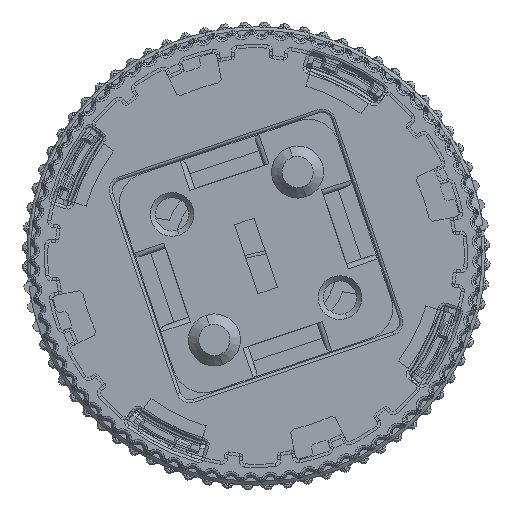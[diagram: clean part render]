
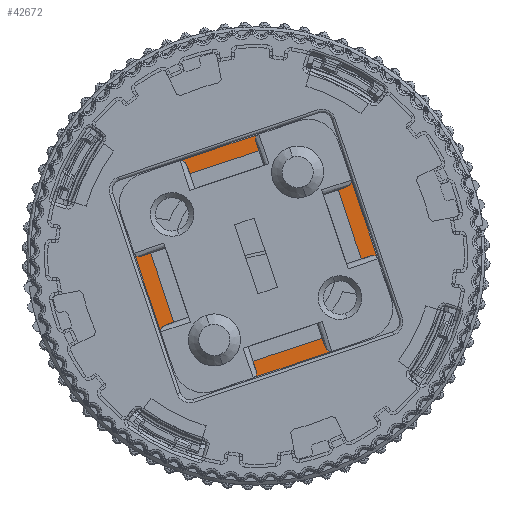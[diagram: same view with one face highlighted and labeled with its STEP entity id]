
A CAD part, left-side view. The second image highlights one B-rep face of the part: STEP entity #42672.
In plain terms, the highlighted planar face has unit normal (-1, 0, 0).
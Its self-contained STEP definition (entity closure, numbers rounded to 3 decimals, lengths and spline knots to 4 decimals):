
#770 = VECTOR ( 'NONE', #143463, 39.3701 ) ;
#2099 = EDGE_CURVE ( 'NONE', #58279, #2350, #7501, .T. ) ;
#2350 = VERTEX_POINT ( 'NONE', #116329 ) ;
#2763 = DIRECTION ( 'NONE',  ( -1., 0., 0. ) ) ;
#6758 = DIRECTION ( 'NONE',  ( -1., 0., 0. ) ) ;
#7058 = VERTEX_POINT ( 'NONE', #138198 ) ;
#7501 = CIRCLE ( 'NONE', #40530, 0.0591 ) ;
#8151 = CARTESIAN_POINT ( 'NONE',  ( -126.1274, -1.8961, 5.7421 ) ) ;
#9899 = CARTESIAN_POINT ( 'NONE',  ( -126.1274, -1.9703, 5.8917 ) ) ;
#9946 = CARTESIAN_POINT ( 'NONE',  ( -126.1274, -1.0226, 6.3617 ) ) ;
#11667 = CARTESIAN_POINT ( 'NONE',  ( -126.1274, -1.8773, 5.798 ) ) ;
#17956 = EDGE_CURVE ( 'NONE', #103654, #7058, #107394, .T. ) ;
#18518 = CARTESIAN_POINT ( 'NONE',  ( -126.1274, -1.1495, 5.6152 ) ) ;
#22136 = CARTESIAN_POINT ( 'NONE',  ( -126.1274, -1.6573, 6.4509 ) ) ;
#23088 = ORIENTED_EDGE ( 'NONE', *, *, #17956, .F. ) ;
#23398 = VECTOR ( 'NONE', #141774, 39.3701 ) ;
#24155 = DIRECTION ( 'NONE',  ( 0., -0.319, -0.948 ) ) ;
#24562 = CARTESIAN_POINT ( 'NONE',  ( -126.1274, -0.9484, 6.2121 ) ) ;
#27514 = EDGE_CURVE ( 'NONE', #7058, #58279, #106747, .T. ) ;
#29853 = EDGE_CURVE ( 'NONE', #45761, #100024, #94927, .T. ) ;
#30330 = DIRECTION ( 'NONE',  ( -1., 0., 0. ) ) ;
#31359 = DIRECTION ( 'NONE',  ( 1., 0., 0. ) ) ;
#32556 = VERTEX_POINT ( 'NONE', #152273 ) ;
#33954 = AXIS2_PLACEMENT_3D ( 'NONE', #100834, #128558, #158840 ) ;
#40530 = AXIS2_PLACEMENT_3D ( 'NONE', #179499, #6758, #165046 ) ;
#40935 = CARTESIAN_POINT ( 'NONE',  ( -126.1274, -1.6196, 6.5629 ) ) ;
#41135 = VERTEX_POINT ( 'NONE', #73637 ) ;
#42672 = ADVANCED_FACE ( 'NONE', ( #95650, #57364 ), #159929, .F. ) ;
#43236 = ORIENTED_EDGE ( 'NONE', *, *, #27514, .F. ) ;
#43441 = AXIS2_PLACEMENT_3D ( 'NONE', #22136, #80734, #93968 ) ;
#44600 = AXIS2_PLACEMENT_3D ( 'NONE', #72346, #31359, #88004 ) ;
#45761 = VERTEX_POINT ( 'NONE', #9899 ) ;
#46402 = CIRCLE ( 'NONE', #103390, 0.0591 ) ;
#47708 = VECTOR ( 'NONE', #50980, 39.3701 ) ;
#48246 = VERTEX_POINT ( 'NONE', #112006 ) ;
#49304 = DIRECTION ( 'NONE',  ( 0., 0.319, 0.948 ) ) ;
#49653 = EDGE_CURVE ( 'NONE', #2350, #150858, #135583, .T. ) ;
#50337 = LINE ( 'NONE', #110493, #122465 ) ;
#50980 = DIRECTION ( 'NONE',  ( 0., 0.948, -0.319 ) ) ;
#51921 = EDGE_CURVE ( 'NONE', #100024, #48246, #141633, .T. ) ;
#52222 = CARTESIAN_POINT ( 'NONE',  ( -126.1274, -1.6384, 6.5069 ) ) ;
#53298 = EDGE_CURVE ( 'NONE', #140935, #45761, #154873, .T. ) ;
#54847 = DIRECTION ( 'NONE',  ( 0., 0.948, -0.319 ) ) ;
#55816 = CARTESIAN_POINT ( 'NONE',  ( -126.1274, -1.7132, 6.4698 ) ) ;
#56794 = CIRCLE ( 'NONE', #107804, 0.1181 ) ;
#57364 = FACE_BOUND ( 'NONE', #67168, .T. ) ;
#58279 = VERTEX_POINT ( 'NONE', #55816 ) ;
#62817 = EDGE_CURVE ( 'NONE', #32556, #140935, #165634, .T. ) ;
#64199 = EDGE_CURVE ( 'NONE', #78863, #124902, #154992, .T. ) ;
#67168 = EDGE_LOOP ( 'NONE', ( #127719, #43236, #23088, #84125, #89032, #115323, #95496, #78342 ) ) ;
#70202 = CARTESIAN_POINT ( 'NONE',  ( -126.1274, -1.2615, 5.6529 ) ) ;
#70248 = DIRECTION ( 'NONE',  ( 0., -0.948, 0.319 ) ) ;
#72346 = CARTESIAN_POINT ( 'NONE',  ( -126.1274, -1.6573, 6.4509 ) ) ;
#73637 = CARTESIAN_POINT ( 'NONE',  ( -126.1274, -1.2803, 5.5969 ) ) ;
#73789 = VECTOR ( 'NONE', #136313, 39.3701 ) ;
#74650 = VERTEX_POINT ( 'NONE', #18518 ) ;
#76550 = DIRECTION ( 'NONE',  ( -1., 0., 0. ) ) ;
#78342 = ORIENTED_EDGE ( 'NONE', *, *, #49653, .F. ) ;
#78529 = VERTEX_POINT ( 'NONE', #24562 ) ;
#78863 = VERTEX_POINT ( 'NONE', #135936 ) ;
#80564 = ORIENTED_EDGE ( 'NONE', *, *, #89788, .T. ) ;
#80734 = DIRECTION ( 'NONE',  ( -1., 0., 0. ) ) ;
#82859 = DIRECTION ( 'NONE',  ( 0., -0.948, 0.319 ) ) ;
#84125 = ORIENTED_EDGE ( 'NONE', *, *, #124322, .F. ) ;
#84526 = CARTESIAN_POINT ( 'NONE',  ( -126.1274, -1.2055, 5.634 ) ) ;
#88004 = DIRECTION ( 'NONE',  ( 0., 0.948, -0.319 ) ) ;
#88735 = ORIENTED_EDGE ( 'NONE', *, *, #62817, .T. ) ;
#89032 = ORIENTED_EDGE ( 'NONE', *, *, #134594, .F. ) ;
#89788 = EDGE_CURVE ( 'NONE', #78529, #74650, #50337, .T. ) ;
#90092 = CARTESIAN_POINT ( 'NONE',  ( -126.1274, -1.2615, 5.6529 ) ) ;
#90337 = VECTOR ( 'NONE', #54847, 39.3701 ) ;
#91007 = CARTESIAN_POINT ( 'NONE',  ( -126.1274, -1.8584, 5.854 ) ) ;
#91686 = CARTESIAN_POINT ( 'NONE',  ( -126.1274, -1.8773, 5.798 ) ) ;
#92772 = CIRCLE ( 'NONE', #128680, 0.0591 ) ;
#93376 = CARTESIAN_POINT ( 'NONE',  ( -126.1274, -1.9703, 5.8917 ) ) ;
#93968 = DIRECTION ( 'NONE',  ( 0., 0.948, -0.319 ) ) ;
#94927 = LINE ( 'NONE', #93376, #126408 ) ;
#95496 = ORIENTED_EDGE ( 'NONE', *, *, #105479, .F. ) ;
#95650 = FACE_OUTER_BOUND ( 'NONE', #158820, .T. ) ;
#96205 = ORIENTED_EDGE ( 'NONE', *, *, #117959, .T. ) ;
#100024 = VERTEX_POINT ( 'NONE', #145437 ) ;
#100834 = CARTESIAN_POINT ( 'NONE',  ( -126.1274, -1.0603, 6.2498 ) ) ;
#103390 = AXIS2_PLACEMENT_3D ( 'NONE', #70202, #154722, #82859 ) ;
#103654 = VERTEX_POINT ( 'NONE', #91686 ) ;
#105479 = EDGE_CURVE ( 'NONE', #150858, #78863, #92772, .T. ) ;
#106747 = LINE ( 'NONE', #112785, #23398 ) ;
#106752 = CARTESIAN_POINT ( 'NONE',  ( -126.1274, -1.2055, 5.634 ) ) ;
#107394 = CIRCLE ( 'NONE', #181403, 0.0591 ) ;
#107804 = AXIS2_PLACEMENT_3D ( 'NONE', #90092, #30330, #175264 ) ;
#108937 = DIRECTION ( 'NONE',  ( -1., 0., 0. ) ) ;
#109691 = CARTESIAN_POINT ( 'NONE',  ( -126.1274, -1.0415, 6.3058 ) ) ;
#110442 = ORIENTED_EDGE ( 'NONE', *, *, #163174, .T. ) ;
#110493 = CARTESIAN_POINT ( 'NONE',  ( -126.1274, -1.1495, 5.6152 ) ) ;
#112006 = CARTESIAN_POINT ( 'NONE',  ( -126.1274, -1.6196, 6.5629 ) ) ;
#112785 = CARTESIAN_POINT ( 'NONE',  ( -126.1274, -1.9144, 5.8729 ) ) ;
#115323 = ORIENTED_EDGE ( 'NONE', *, *, #64199, .F. ) ;
#116329 = CARTESIAN_POINT ( 'NONE',  ( -126.1274, -1.6384, 6.5069 ) ) ;
#116480 = ORIENTED_EDGE ( 'NONE', *, *, #51921, .T. ) ;
#116921 = DIRECTION ( 'NONE',  ( 0., -0.948, 0.319 ) ) ;
#117959 = EDGE_CURVE ( 'NONE', #74650, #32556, #56794, .T. ) ;
#122465 = VECTOR ( 'NONE', #24155, 39.3701 ) ;
#124322 = EDGE_CURVE ( 'NONE', #41135, #103654, #171133, .T. ) ;
#124902 = VERTEX_POINT ( 'NONE', #84526 ) ;
#126408 = VECTOR ( 'NONE', #49304, 39.3701 ) ;
#127719 = ORIENTED_EDGE ( 'NONE', *, *, #2099, .F. ) ;
#128558 = DIRECTION ( 'NONE',  ( -1., 0., 0. ) ) ;
#128680 = AXIS2_PLACEMENT_3D ( 'NONE', #137261, #108937, #137882 ) ;
#130431 = CIRCLE ( 'NONE', #33954, 0.1181 ) ;
#134594 = EDGE_CURVE ( 'NONE', #124902, #41135, #46402, .T. ) ;
#135379 = ORIENTED_EDGE ( 'NONE', *, *, #29853, .T. ) ;
#135583 = LINE ( 'NONE', #52222, #47708 ) ;
#135936 = CARTESIAN_POINT ( 'NONE',  ( -126.1274, -1.0044, 6.231 ) ) ;
#136313 = DIRECTION ( 'NONE',  ( 0., -0.319, -0.948 ) ) ;
#136332 = DIRECTION ( 'NONE',  ( 0., 0.948, -0.319 ) ) ;
#137261 = CARTESIAN_POINT ( 'NONE',  ( -126.1274, -1.0603, 6.2498 ) ) ;
#137882 = DIRECTION ( 'NONE',  ( 0., -0.948, 0.319 ) ) ;
#138198 = CARTESIAN_POINT ( 'NONE',  ( -126.1274, -1.9144, 5.8729 ) ) ;
#140935 = VERTEX_POINT ( 'NONE', #8151 ) ;
#141633 = CIRCLE ( 'NONE', #43441, 0.1181 ) ;
#141774 = DIRECTION ( 'NONE',  ( 0., 0.319, 0.948 ) ) ;
#143463 = DIRECTION ( 'NONE',  ( 0., -0.948, 0.319 ) ) ;
#145437 = CARTESIAN_POINT ( 'NONE',  ( -126.1274, -1.7692, 6.4887 ) ) ;
#150858 = VERTEX_POINT ( 'NONE', #109691 ) ;
#152273 = CARTESIAN_POINT ( 'NONE',  ( -126.1274, -1.2992, 5.5409 ) ) ;
#154722 = DIRECTION ( 'NONE',  ( -1., 0., 0. ) ) ;
#154873 = CIRCLE ( 'NONE', #175511, 0.1181 ) ;
#154992 = LINE ( 'NONE', #106752, #73789 ) ;
#155663 = ORIENTED_EDGE ( 'NONE', *, *, #53298, .T. ) ;
#155737 = ORIENTED_EDGE ( 'NONE', *, *, #177540, .T. ) ;
#158820 = EDGE_LOOP ( 'NONE', ( #116480, #155737, #110442, #80564, #96205, #88735, #155663, #135379 ) ) ;
#158840 = DIRECTION ( 'NONE',  ( 0., -0.948, 0.319 ) ) ;
#159929 = PLANE ( 'NONE',  #44600 ) ;
#163174 = EDGE_CURVE ( 'NONE', #165933, #78529, #130431, .T. ) ;
#165046 = DIRECTION ( 'NONE',  ( 0., 0.948, -0.319 ) ) ;
#165634 = LINE ( 'NONE', #171279, #770 ) ;
#165933 = VERTEX_POINT ( 'NONE', #9946 ) ;
#171133 = LINE ( 'NONE', #11667, #186804 ) ;
#171279 = CARTESIAN_POINT ( 'NONE',  ( -126.1274, -1.8961, 5.7421 ) ) ;
#175264 = DIRECTION ( 'NONE',  ( 0., -0.948, 0.319 ) ) ;
#175511 = AXIS2_PLACEMENT_3D ( 'NONE', #176758, #2763, #116921 ) ;
#176758 = CARTESIAN_POINT ( 'NONE',  ( -126.1274, -1.8584, 5.854 ) ) ;
#177540 = EDGE_CURVE ( 'NONE', #48246, #165933, #185156, .T. ) ;
#179499 = CARTESIAN_POINT ( 'NONE',  ( -126.1274, -1.6573, 6.4509 ) ) ;
#181403 = AXIS2_PLACEMENT_3D ( 'NONE', #91007, #76550, #136332 ) ;
#185156 = LINE ( 'NONE', #40935, #90337 ) ;
#186804 = VECTOR ( 'NONE', #70248, 39.3701 ) ;
